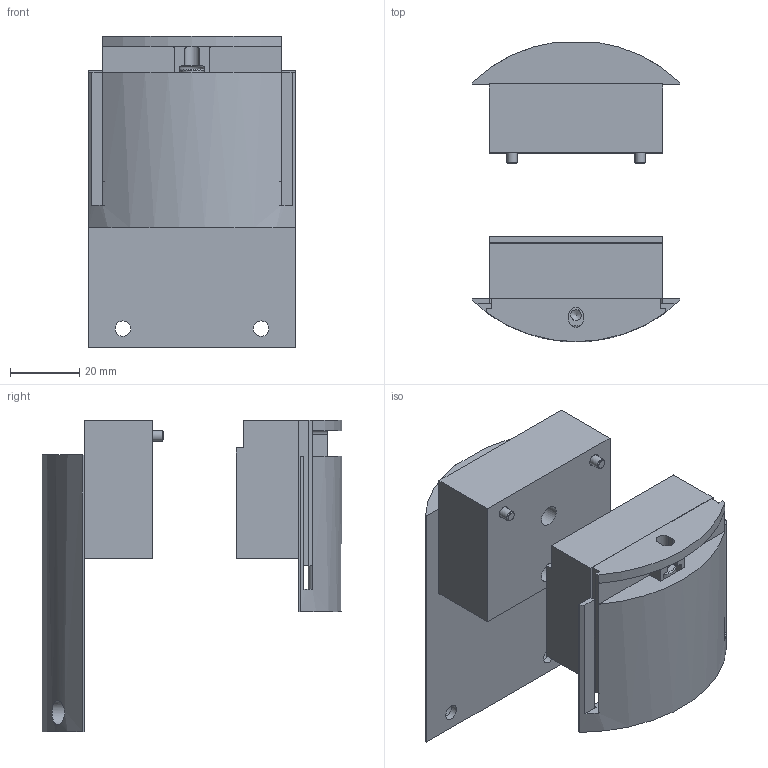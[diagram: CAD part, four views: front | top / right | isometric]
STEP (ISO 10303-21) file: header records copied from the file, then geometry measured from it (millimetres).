
FILE_DESCRIPTION(/* description */ ('Tělo krytu'),/* implementation_level */ '2;1');
FILE_NAME(/* name */ 'SUB-CH87-CMK-M03.stp',/* time_stamp */ '2026-04-14T13:55:00+02:00',/* author */ ('roman'),/* organization */ (''),/* preprocessor_version */ 'ST-DEVELOPER v20',/* originating_system */ 'Autodesk Inventor 2024',/* authorisation */ '');
FILE_SCHEMA (('AUTOMOTIVE_DESIGN { 1 0 10303 214 3 1 1 }'));
Length unit declared in the file: millimetre
Products named in the file (8): SUB-CH87-CMK-M03; CH87-CMK-APT; DIN 912 - M3 x 10; DIN 912 - M4 x 40; CH87-CMK-FXP-R02; CH87-CMK-APH-R02; CH87-CMK-FXP-M03; CH87-CMK-APH-M02
Assembly tree (12 placements, depth 2):
  SUB-CH87-CMK-M03
    CH87-CMK-APT
    DIN 912 - M3 x 10  x6
    DIN 912 - M4 x 40
    CH87-CMK-FXP-R02
    CH87-CMK-APH-R02
    CH87-CMK-FXP-M03
    CH87-CMK-APH-M02
Bounding box: 60.03 x 86.58 x 90 mm (x, y, z)
Volume: 137730.7 mm3; surface area: 43603.2 mm2
Topology: 12 solids, 12 shells, 254 faces, 625 edges, 408 vertices
Faces by surface type: plane 143, cylinder 63, torus 24, cone 24
Full cylindrical faces by diameter (mm): 2.459 x4, 3 x6, 3.242 x1, 3.5 x6, 4 x1, 4.5 x2, 5.5 x6, 6 x6, 7 x3
Entity records: 5777 total; most frequent: CARTESIAN_POINT 1038, DIRECTION 979, ORIENTED_EDGE 886, EDGE_CURVE 443, AXIS2_PLACEMENT_3D 355, VERTEX_POINT 288, LINE 269, VECTOR 269
